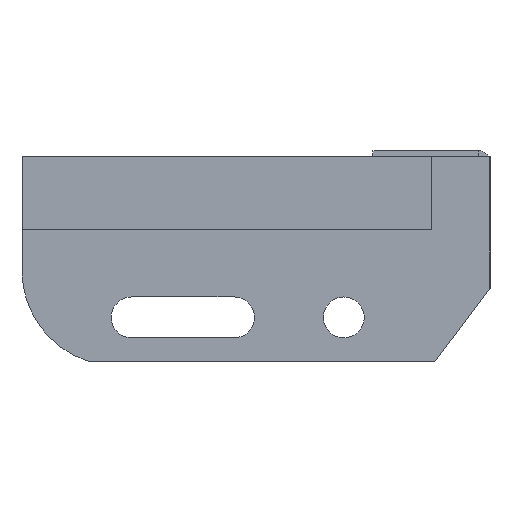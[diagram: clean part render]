
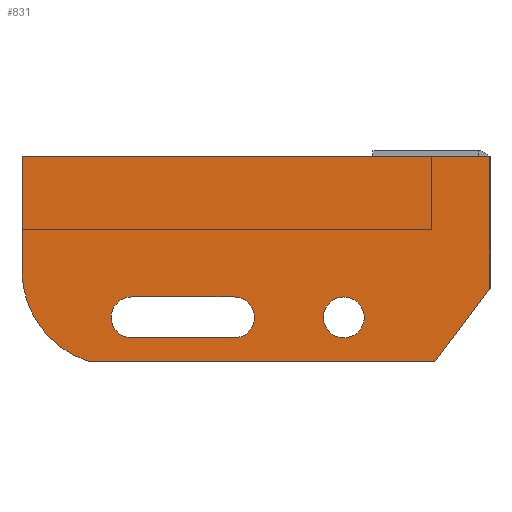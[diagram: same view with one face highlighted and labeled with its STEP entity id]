
A CAD part, left-side view. The second image highlights one B-rep face of the part: STEP entity #831.
In plain terms, the highlighted planar face has unit normal (-1, 0, 0) as drawn and (0, 0, 1) by its records, which use the part's own axes.
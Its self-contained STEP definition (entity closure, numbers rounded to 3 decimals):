
#29 = ORIENTED_EDGE ( 'NONE', *, *, #1483, .T. ) ;
#45 = EDGE_CURVE ( 'NONE', #1802, #1927, #1629, .T. ) ;
#48 = CARTESIAN_POINT ( 'NONE',  ( 0., 0., 3. ) ) ;
#56 = DIRECTION ( 'NONE',  ( 0., 0., 1. ) ) ;
#66 = DIRECTION ( 'NONE',  ( 0., 0., 1. ) ) ;
#91 = DIRECTION ( 'NONE',  ( 0., 0., 1. ) ) ;
#92 = CARTESIAN_POINT ( 'NONE',  ( -43., -55., 3. ) ) ;
#100 = CARTESIAN_POINT ( 'NONE',  ( -87.5, -62., 3. ) ) ;
#109 = FACE_OUTER_BOUND ( 'NONE', #1550, .T. ) ;
#133 = VERTEX_POINT ( 'NONE', #752 ) ;
#141 = DIRECTION ( 'NONE',  ( 1., 0., 0. ) ) ;
#170 = CARTESIAN_POINT ( 'NONE',  ( -122.5, -55., 3. ) ) ;
#172 = EDGE_LOOP ( 'NONE', ( #526, #1947 ) ) ;
#208 = DIRECTION ( 'NONE',  ( 1., 0., 0. ) ) ;
#224 = CIRCLE ( 'NONE', #385, 32.5 ) ;
#228 = DIRECTION ( 'NONE',  ( 1., 0., 0. ) ) ;
#251 = CARTESIAN_POINT ( 'NONE',  ( -127.5, -39., 3. ) ) ;
#253 = PLANE ( 'NONE',  #1243 ) ;
#279 = EDGE_LOOP ( 'NONE', ( #1909, #1737, #1873, #473, #1285 ) ) ;
#309 = VERTEX_POINT ( 'NONE', #100 ) ;
#336 = CARTESIAN_POINT ( 'NONE',  ( -18.839, -70., 3. ) ) ;
#385 = AXIS2_PLACEMENT_3D ( 'NONE', #251, #56, #228 ) ;
#467 = EDGE_CURVE ( 'NONE', #873, #1742, #1117, .T. ) ;
#473 = ORIENTED_EDGE ( 'NONE', *, *, #972, .F. ) ;
#487 = DIRECTION ( 'NONE',  ( 1., 0., 0. ) ) ;
#490 = VECTOR ( 'NONE', #1914, 1000. ) ;
#505 = DIRECTION ( 'NONE',  ( 1., 0., 0. ) ) ;
#526 = ORIENTED_EDGE ( 'NONE', *, *, #850, .F. ) ;
#533 = LINE ( 'NONE', #1160, #821 ) ;
#559 = DIRECTION ( 'NONE',  ( 1., 0., 0. ) ) ;
#564 = CARTESIAN_POINT ( 'NONE',  ( -122.5, -48., 3. ) ) ;
#582 = CARTESIAN_POINT ( 'NONE',  ( -57., -55., 3. ) ) ;
#636 = CARTESIAN_POINT ( 'NONE',  ( -18.839, -70., 3. ) ) ;
#647 = CARTESIAN_POINT ( 'NONE',  ( -87.5, -55., 3. ) ) ;
#656 = CARTESIAN_POINT ( 'NONE',  ( -122.5, -55., 3. ) ) ;
#658 = EDGE_CURVE ( 'NONE', #1056, #133, #1193, .T. ) ;
#660 = AXIS2_PLACEMENT_3D ( 'NONE', #170, #1874, #1728 ) ;
#732 = CARTESIAN_POINT ( 'NONE',  ( -137.26, -70., 3. ) ) ;
#737 = CARTESIAN_POINT ( 'NONE',  ( 0., 0., 3. ) ) ;
#739 = EDGE_CURVE ( 'NONE', #1432, #1708, #1735, .T. ) ;
#752 = CARTESIAN_POINT ( 'NONE',  ( 0., 0., 3. ) ) ;
#772 = ORIENTED_EDGE ( 'NONE', *, *, #1573, .T. ) ;
#778 = LINE ( 'NONE', #1913, #1900 ) ;
#786 = CIRCLE ( 'NONE', #1831, 7. ) ;
#810 = ORIENTED_EDGE ( 'NONE', *, *, #45, .T. ) ;
#814 = VERTEX_POINT ( 'NONE', #1800 ) ;
#821 = VECTOR ( 'NONE', #1956, 1000. ) ;
#828 = DIRECTION ( 'NONE',  ( 1., 0., 0. ) ) ;
#831 = ADVANCED_FACE ( 'NONE', ( #109, #871, #1012 ), #253, .T. ) ;
#850 = EDGE_CURVE ( 'NONE', #1708, #1432, #786, .T. ) ;
#871 = FACE_BOUND ( 'NONE', #172, .T. ) ;
#873 = VERTEX_POINT ( 'NONE', #732 ) ;
#887 = CIRCLE ( 'NONE', #1568, 7. ) ;
#912 = CARTESIAN_POINT ( 'NONE',  ( 0., -45., 3. ) ) ;
#963 = VECTOR ( 'NONE', #141, 1000. ) ;
#972 = EDGE_CURVE ( 'NONE', #1712, #814, #1974, .T. ) ;
#985 = CIRCLE ( 'NONE', #660, 7. ) ;
#994 = DIRECTION ( 'NONE',  ( 0., 0., 1. ) ) ;
#1012 = FACE_BOUND ( 'NONE', #279, .T. ) ;
#1019 = VERTEX_POINT ( 'NONE', #1698 ) ;
#1056 = VERTEX_POINT ( 'NONE', #912 ) ;
#1078 = VECTOR ( 'NONE', #1186, 1000. ) ;
#1117 = LINE ( 'NONE', #336, #963 ) ;
#1133 = ORIENTED_EDGE ( 'NONE', *, *, #467, .T. ) ;
#1160 = CARTESIAN_POINT ( 'NONE',  ( 0., -45., 3. ) ) ;
#1162 = VERTEX_POINT ( 'NONE', #1995 ) ;
#1163 = DIRECTION ( 'NONE',  ( 1., 0., 0. ) ) ;
#1169 = VECTOR ( 'NONE', #1761, 1000. ) ;
#1186 = DIRECTION ( 'NONE',  ( -1., 0., 0. ) ) ;
#1193 = LINE ( 'NONE', #737, #1222 ) ;
#1222 = VECTOR ( 'NONE', #1519, 1000. ) ;
#1243 = AXIS2_PLACEMENT_3D ( 'NONE', #1615, #994, #208 ) ;
#1269 = DIRECTION ( 'NONE',  ( 0., 0., 1. ) ) ;
#1285 = ORIENTED_EDGE ( 'NONE', *, *, #1374, .F. ) ;
#1312 = EDGE_CURVE ( 'NONE', #1019, #1162, #887, .T. ) ;
#1325 = CARTESIAN_POINT ( 'NONE',  ( -160., 0., 3. ) ) ;
#1336 = EDGE_CURVE ( 'NONE', #133, #1802, #1575, .T. ) ;
#1358 = CARTESIAN_POINT ( 'NONE',  ( -50., -55., 3. ) ) ;
#1374 = EDGE_CURVE ( 'NONE', #309, #1712, #1470, .T. ) ;
#1389 = CARTESIAN_POINT ( 'NONE',  ( -87.5, -48., 3. ) ) ;
#1410 = CARTESIAN_POINT ( 'NONE',  ( -160., 0., 3. ) ) ;
#1414 = ORIENTED_EDGE ( 'NONE', *, *, #1336, .T. ) ;
#1432 = VERTEX_POINT ( 'NONE', #92 ) ;
#1446 = CARTESIAN_POINT ( 'NONE',  ( -160., -39., 3. ) ) ;
#1470 = CIRCLE ( 'NONE', #1636, 7. ) ;
#1483 = EDGE_CURVE ( 'NONE', #1927, #873, #224, .T. ) ;
#1519 = DIRECTION ( 'NONE',  ( 0., 1., 0. ) ) ;
#1550 = EDGE_LOOP ( 'NONE', ( #1916, #1414, #810, #29, #1133, #772 ) ) ;
#1568 = AXIS2_PLACEMENT_3D ( 'NONE', #656, #1269, #828 ) ;
#1573 = EDGE_CURVE ( 'NONE', #1742, #1056, #533, .T. ) ;
#1575 = LINE ( 'NONE', #48, #490 ) ;
#1615 = CARTESIAN_POINT ( 'NONE',  ( -127.5, -39., 3. ) ) ;
#1629 = LINE ( 'NONE', #1325, #1169 ) ;
#1636 = AXIS2_PLACEMENT_3D ( 'NONE', #647, #1893, #487 ) ;
#1698 = CARTESIAN_POINT ( 'NONE',  ( -129.5, -55., 3. ) ) ;
#1708 = VERTEX_POINT ( 'NONE', #582 ) ;
#1712 = VERTEX_POINT ( 'NONE', #1389 ) ;
#1728 = DIRECTION ( 'NONE',  ( 1., 0., 0. ) ) ;
#1735 = CIRCLE ( 'NONE', #2004, 7. ) ;
#1737 = ORIENTED_EDGE ( 'NONE', *, *, #1312, .F. ) ;
#1742 = VERTEX_POINT ( 'NONE', #636 ) ;
#1761 = DIRECTION ( 'NONE',  ( 0., -1., 0. ) ) ;
#1764 = EDGE_CURVE ( 'NONE', #814, #1019, #985, .T. ) ;
#1789 = CARTESIAN_POINT ( 'NONE',  ( -50., -55., 3. ) ) ;
#1800 = CARTESIAN_POINT ( 'NONE',  ( -122.5, -48., 3. ) ) ;
#1802 = VERTEX_POINT ( 'NONE', #1410 ) ;
#1831 = AXIS2_PLACEMENT_3D ( 'NONE', #1789, #66, #1163 ) ;
#1873 = ORIENTED_EDGE ( 'NONE', *, *, #1764, .F. ) ;
#1874 = DIRECTION ( 'NONE',  ( 0., 0., 1. ) ) ;
#1893 = DIRECTION ( 'NONE',  ( 0., 0., 1. ) ) ;
#1900 = VECTOR ( 'NONE', #505, 1000. ) ;
#1909 = ORIENTED_EDGE ( 'NONE', *, *, #1915, .F. ) ;
#1913 = CARTESIAN_POINT ( 'NONE',  ( -122.5, -62., 3. ) ) ;
#1914 = DIRECTION ( 'NONE',  ( -1., 0., 0. ) ) ;
#1915 = EDGE_CURVE ( 'NONE', #1162, #309, #778, .T. ) ;
#1916 = ORIENTED_EDGE ( 'NONE', *, *, #658, .T. ) ;
#1927 = VERTEX_POINT ( 'NONE', #1446 ) ;
#1947 = ORIENTED_EDGE ( 'NONE', *, *, #739, .F. ) ;
#1956 = DIRECTION ( 'NONE',  ( 0.602, 0.799, 0. ) ) ;
#1974 = LINE ( 'NONE', #564, #1078 ) ;
#1995 = CARTESIAN_POINT ( 'NONE',  ( -122.5, -62., 3. ) ) ;
#2004 = AXIS2_PLACEMENT_3D ( 'NONE', #1358, #91, #559 ) ;
